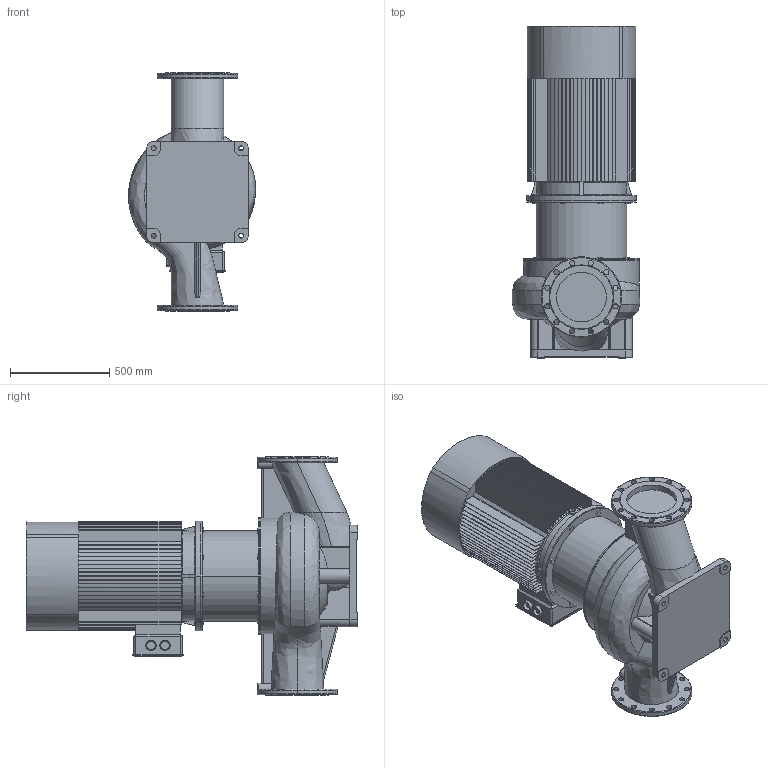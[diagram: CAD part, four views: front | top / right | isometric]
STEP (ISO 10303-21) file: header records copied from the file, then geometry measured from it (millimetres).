
FILE_DESCRIPTION (( 'STEP AP203' ), '1' );
FILE_NAME ('TD250-47_4.STEP', '2022-05-02T18:06:36', ( '' ), ( '' ), 'SwSTEP 2.0', 'SolidWorks 2019', '' );
FILE_SCHEMA (( 'CONFIG_CONTROL_DESIGN' ));
Length unit declared in the file: millimetre
Products named in the file (4): Fon_250_TD250-47_4; ED_B5_YE2-280M-4 (90); Pr_ch 250_TD250-47_4; TD250-47_4
Assembly tree (3 placements, depth 2):
  TD250-47_4
    Pr_ch 250_TD250-47_4
    Fon_250_TD250-47_4
    ED_B5_YE2-280M-4 (90)
Bounding box: 640.1 x 1670 x 1200 mm (x, y, z)
Volume: 336998096 mm3; surface area: 9449800.5 mm2
Topology: 5 solids, 5 shells, 819 faces, 2261 edges, 1498 vertices
Faces by surface type: plane 560, cylinder 187, torus 33, bspline 22, cone 17
Entity records: 35517 total; most frequent: CARTESIAN_POINT 13725, ORIENTED_EDGE 4522, DIRECTION 4432, EDGE_CURVE 2261, AXIS2_PLACEMENT_3D 1520, VERTEX_POINT 1498, VECTOR 1392, LINE 1392
